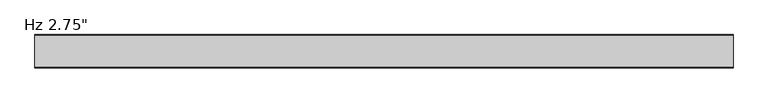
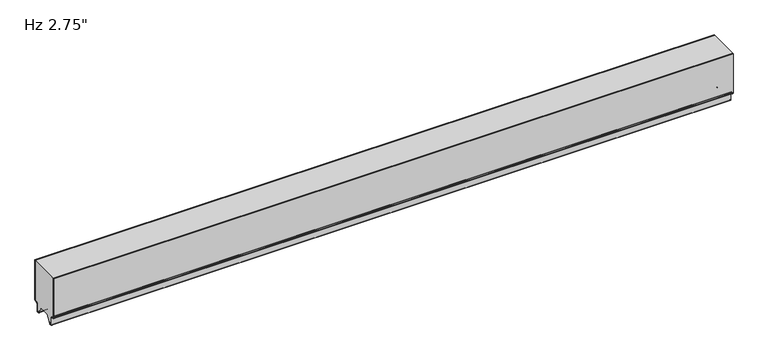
"""IFC4 building model written with IfcOpenShell, lengths in millimetres: plate geometry."""

from ifc_helpers import new_model, si_unit, frame, origin, place, context, project, spatial, polyline, circle_curve, source, transform, mapped, element, save
from ifc_brep_helpers import plane_surface, cylinder_surface, revolved_surface, advanced_brep


def plate_9613dffa(model_context):
    return source(origin(), model_context, "Body", "AdvancedBrep", [
        advanced_brep(
        [(-730.0, -2.9776189, 3.8501063), (-730.0, -1.0007088, 5.8270163), (-730.0, -1.0007088, 94.95), (-730.0, 0.0, 94.95), (-730.0, 0.0, 5.8272211), (-730.0, -2.977286, 2.8499526), (-730.0, -5.2691698, 2.8499526), (-730.0, -8.2464384, -0.1273159), (-730.0, -8.2464384, -15.7237419), (-730.0, -9.8343149, -17.3116185), (-730.0, -12.9058636, -17.3116185), (-730.0, -14.4937401, -15.7237419), (-730.0, -14.4937401, -13.3687064), (-730.0, -13.4937365, -13.3687064), (-730.0, -13.4937365, -15.7237374), (-730.0, -12.9058654, -16.3116086), (-730.0, -9.834334, -16.3116086), (-730.0, -9.2464768, -15.7237514), (-730.0, -9.2464768, -0.1272391), (-730.0, -5.2691315, 3.8501063), (730.0, -2.9776189, 3.8501063), (730.0, -5.2691315, 3.8501063), (730.0, -9.2464768, -0.1272391), (730.0, -9.2464768, -15.7237514), (730.0, -9.834334, -16.3116086), (730.0, -12.9058654, -16.3116086), (730.0, -13.4937365, -15.7237374), (730.0, -13.4937365, -13.3687064), (730.0, -14.4937401, -13.3687064), (730.0, -14.4937401, -15.7237419), (730.0, -12.9058636, -17.3116185), (730.0, -9.8343149, -17.3116185), (730.0, -8.2464384, -15.7237419), (730.0, -8.2464384, -0.1273159), (730.0, -5.2691698, 2.8499526), (730.0, -2.977286, 2.8499526), (730.0, -1.75e-05, 5.8272211), (730.0, 0.0, 94.95), (730.0, -1.0007088, 94.95), (730.0, -1.0007088, 5.8270163)],
        [
            (0, 1, circle_curve(frame((-730.0, -2.9776189, 5.8270163), z_axis=(1.0, 0.0, 0.0), x_axis=(0.0, 1.0, 0.0)), 1.9769101)),
            (1, 2),
            (2, 3),
            (3, 4),
            (4, 5, circle_curve(frame((-730.0, -2.977286, 5.8272211), z_axis=(-1.0, 0.0, 0.0), x_axis=(0.0, 1.0, 0.0)), 2.9772685)),
            (5, 6),
            (6, 7, circle_curve(frame((-730.0, -5.2691698, -0.1273159), z_axis=(1.0, 0.0, 0.0), x_axis=(0.0, 1.0, 0.0)), 2.9772685)),
            (7, 8),
            (8, 9, circle_curve(frame((-730.0, -9.8343149, -15.7237419), z_axis=(-1.0, 0.0, 0.0), x_axis=(0.0, 1.0, 0.0)), 1.5878765)),
            (9, 10),
            (10, 11, circle_curve(frame((-730.0, -12.9058636, -15.7237419), z_axis=(-1.0, 0.0, 0.0), x_axis=(0.0, 1.0, 0.0)), 1.5878765)),
            (11, 12),
            (12, 13),
            (13, 14),
            (14, 15, circle_curve(frame((-730.0, -12.9058654, -15.7237374), z_axis=(1.0, 0.0, 0.0), x_axis=(0.0, 1.0, 0.0)), 0.5878711)),
            (15, 16),
            (16, 17, circle_curve(frame((-730.0, -9.834334, -15.7237514), z_axis=(1.0, 0.0, 0.0), x_axis=(0.0, 1.0, 0.0)), 0.5878572)),
            (17, 18),
            (18, 19, circle_curve(frame((-730.0, -5.2691315, -0.1272391), z_axis=(-1.0, 0.0, 0.0), x_axis=(0.0, 1.0, 0.0)), 3.9773454)),
            (19, 0),
            (20, 21),
            (21, 22, circle_curve(frame((730.0, -5.2691315, -0.1272391), z_axis=(1.0, 0.0, 0.0), x_axis=(0.0, 1.0, 0.0)), 3.9773454)),
            (22, 23),
            (23, 24, circle_curve(frame((730.0, -9.834334, -15.7237514), z_axis=(-1.0, 0.0, 0.0), x_axis=(0.0, 1.0, 0.0)), 0.5878572)),
            (24, 25),
            (25, 26, circle_curve(frame((730.0, -12.9058654, -15.7237374), z_axis=(-1.0, 0.0, 0.0), x_axis=(0.0, 1.0, 0.0)), 0.5878711)),
            (26, 27),
            (27, 28),
            (28, 29),
            (29, 30, circle_curve(frame((730.0, -12.9058636, -15.7237419), z_axis=(1.0, 0.0, 0.0), x_axis=(0.0, 1.0, 0.0)), 1.5878765)),
            (30, 31),
            (31, 32, circle_curve(frame((730.0, -9.8343149, -15.7237419), z_axis=(1.0, 0.0, 0.0), x_axis=(0.0, 1.0, 0.0)), 1.5878765)),
            (32, 33),
            (33, 34, circle_curve(frame((730.0, -5.2691698, -0.1273159), z_axis=(-1.0, 0.0, 0.0), x_axis=(0.0, 1.0, 0.0)), 2.9772685)),
            (34, 35),
            (35, 36, circle_curve(frame((730.0, -2.977286, 5.8272211), z_axis=(1.0, 0.0, 0.0), x_axis=(0.0, 1.0, 0.0)), 2.9772685)),
            (36, 37),
            (37, 38),
            (38, 39),
            (39, 20, circle_curve(frame((730.0, -2.9776189, 5.8270163), z_axis=(-1.0, 0.0, 0.0), x_axis=(0.0, 1.0, 0.0)), 1.9769101)),
            (2, 38),
            (37, 3),
            (19, 21),
            (20, 0),
            (18, 22),
            (17, 23),
            (16, 24),
            (15, 25),
            (14, 26),
            (13, 27),
            (12, 28),
            (11, 29),
            (10, 30),
            (9, 31),
            (8, 32),
            (7, 33),
            (6, 34),
            (5, 35),
            (4, 36),
            (1, 39),
        ],
        [
            plane_surface(frame((-730.0, 0.0, 576.2625), z_axis=(-1.0, 0.0, 0.0), x_axis=(0.0, 1.0, 0.0))),
            plane_surface(frame((730.0, 0.0, 576.2625), z_axis=(1.0, 0.0, 0.0), x_axis=(0.0, 1.0, 0.0))),
            plane_surface(frame((730.0, 10.0, 94.95), z_axis=(0.0, 0.0, 1.0), x_axis=(-1.0, 0.0, 0.0))),
            plane_surface(frame((-730.0, -2.9776189, 3.8501063), z_axis=(0.0, 0.0, 1.0), x_axis=(1.0, 0.0, 0.0))),
            cylinder_surface(frame((-730.0, -5.2691315, -0.1272391), z_axis=(-1.0, 0.0, 0.0), x_axis=(0.0, 1.0, 0.0)), 3.9773454),
            plane_surface(frame((-730.0, -9.2464768, -0.1272391), z_axis=(0.0, -1.0, 0.0), x_axis=(1.0, 0.0, 0.0))),
            revolved_surface(polyline([(730.0, -9.2464768, -15.7237514), (-730.0, -9.2464768, -15.7237514)]), (-730.0, -9.834334, -15.7237514), (1.0, 0.0, 0.0)),
            plane_surface(frame((-730.0, -9.834334, -16.3116086), z_axis=(0.0, 0.0, 1.0), x_axis=(1.0, 0.0, 0.0))),
            revolved_surface(polyline([(730.0, -12.3179943, -15.7237374), (-730.0, -12.3179943, -15.7237374)]), (-730.0, -12.9058654, -15.7237374), (1.0, 0.0, 0.0)),
            plane_surface(frame((-730.0, -13.4937365, -15.7237374), z_axis=(0.0, 1.0, 0.0), x_axis=(1.0, 0.0, 0.0))),
            plane_surface(frame((-730.0, -13.4937365, -13.3687064), z_axis=(0.0, 0.0, 1.0), x_axis=(1.0, 0.0, 0.0))),
            plane_surface(frame((-730.0, -14.4937401, -13.3687064), z_axis=(0.0, -1.0, 0.0), x_axis=(1.0, 0.0, 0.0))),
            cylinder_surface(frame((-730.0, -12.9058636, -15.7237419), z_axis=(-1.0, 0.0, 0.0), x_axis=(0.0, 1.0, 0.0)), 1.5878765),
            plane_surface(frame((-730.0, -12.9058636, -17.3116185), z_axis=(0.0, 0.0, -1.0), x_axis=(1.0, 0.0, 0.0))),
            cylinder_surface(frame((-730.0, -9.8343149, -15.7237419), z_axis=(-1.0, 0.0, 0.0), x_axis=(0.0, 1.0, 0.0)), 1.5878765),
            plane_surface(frame((-730.0, -8.2464384, -15.7237419), z_axis=(0.0, 1.0, 0.0), x_axis=(1.0, 0.0, 0.0))),
            revolved_surface(polyline([(730.0, -2.2919013, -0.1273159), (-730.0, -2.2919013, -0.1273159)]), (-730.0, -5.2691698, -0.1273159), (1.0, 0.0, 0.0)),
            plane_surface(frame((-730.0, -5.2691698, 2.8499526), z_axis=(0.0, 0.0, -1.0), x_axis=(1.0, 0.0, 0.0))),
            cylinder_surface(frame((-730.0, -2.977286, 5.8272211), z_axis=(-1.0, 0.0, 0.0), x_axis=(0.0, 1.0, 0.0)), 2.9772685),
            plane_surface(frame((-730.0, 0.0, 5.8272211), z_axis=(0.0, 1.0, 0.0), x_axis=(1.0, 0.0, 0.0))),
            plane_surface(frame((-730.0, -1.0007088, 1150.812837), z_axis=(0.0, -1.0, 0.0), x_axis=(1.0, 0.0, 0.0))),
            revolved_surface(polyline([(730.0, -1.0007088, 5.8270163), (-730.0, -1.0007088, 5.8270163)]), (-730.0, -2.9776189, 5.8270163), (1.0, 0.0, 0.0)),
        ],
        [
            (0, [[1, 2, 3, 4, 5, 6, 7, 8, 9, 10, 11, 12, 13, 14, 15, 16, 17, 18, 19, 20]]),
            (1, [[21, 22, 23, 24, 25, 26, 27, 28, 29, 30, 31, 32, 33, 34, 35, 36, 37, 38, 39, 40]]),
            (2, [[41, -38, 42, -3]]),
            (3, [[43, -21, 44, -20]]),
            (4, [[45, -22, -43, -19]]),
            (5, [[46, -23, -45, -18]]),
            (6, [[47, -24, -46, -17]]),
            (7, [[48, -25, -47, -16]]),
            (8, [[49, -26, -48, -15]]),
            (9, [[50, -27, -49, -14]]),
            (10, [[51, -28, -50, -13]]),
            (11, [[52, -29, -51, -12]]),
            (12, [[53, -30, -52, -11]]),
            (13, [[54, -31, -53, -10]]),
            (14, [[55, -32, -54, -9]]),
            (15, [[56, -33, -55, -8]]),
            (16, [[57, -34, -56, -7]]),
            (17, [[58, -35, -57, -6]]),
            (18, [[59, -36, -58, -5]]),
            (19, [[-4, -42, -37, -59]]),
            (20, [[-39, -41, -2, 60]]),
            (21, [[-44, -40, -60, -1]]),
        ],
    ),
        advanced_brep(
        [(-730.0, -66.9223811, 3.8501063), (-730.0, -64.6308685, 3.8501063), (-730.0, -60.6535232, -0.1272391), (-730.0, -60.6535232, -15.7237514), (-730.0, -60.065666, -16.3116086), (-730.0, -56.9941346, -16.3116086), (-730.0, -56.4062635, -15.7237374), (-730.0, -56.4062635, -13.3687064), (-730.0, -55.4062599, -13.3687064), (-730.0, -55.4062599, -15.7237419), (-730.0, -56.9941364, -17.3116185), (-730.0, -60.0656851, -17.3116185), (-730.0, -61.6535616, -15.7237419), (-730.0, -61.6535616, -0.1273159), (-730.0, -64.6308302, 2.8499526), (-730.0, -66.922714, 2.8499526), (-730.0, -69.8999825, 5.8272211), (-730.0, -69.9, 94.95), (-730.0, -68.8992912, 94.95), (-730.0, -68.8992912, 5.8270163), (730.0, -66.9223811, 3.8501063), (730.0, -68.8992912, 5.8270163), (730.0, -68.8992912, 94.95), (730.0, -69.9, 94.95), (730.0, -69.9, 5.8272211), (730.0, -66.922714, 2.8499526), (730.0, -64.6308302, 2.8499526), (730.0, -61.6535616, -0.1273159), (730.0, -61.6535616, -15.7237419), (730.0, -60.0656851, -17.3116185), (730.0, -56.9941364, -17.3116185), (730.0, -55.4062599, -15.7237419), (730.0, -55.4062599, -13.3687064), (730.0, -56.4062635, -13.3687064), (730.0, -56.4062635, -15.7237374), (730.0, -56.9941346, -16.3116086), (730.0, -60.065666, -16.3116086), (730.0, -60.6535232, -15.7237514), (730.0, -60.6535232, -0.1272391), (730.0, -64.6308685, 3.8501063)],
        [
            (0, 1),
            (1, 2, circle_curve(frame((-730.0, -64.6308685, -0.1272391), z_axis=(-1.0, 0.0, 0.0), x_axis=(0.0, 0.0, -1.0)), 3.9773454)),
            (2, 3),
            (3, 4, circle_curve(frame((-730.0, -60.065666, -15.7237514), z_axis=(1.0, 0.0, 0.0), x_axis=(0.0, 0.0, -1.0)), 0.5878572)),
            (4, 5),
            (5, 6, circle_curve(frame((-730.0, -56.9941346, -15.7237374), z_axis=(1.0, 0.0, 0.0), x_axis=(0.0, 0.0, -1.0)), 0.5878711)),
            (6, 7),
            (7, 8),
            (8, 9),
            (9, 10, circle_curve(frame((-730.0, -56.9941364, -15.7237419), z_axis=(-1.0, 0.0, 0.0), x_axis=(0.0, 0.0, -1.0)), 1.5878765)),
            (10, 11),
            (11, 12, circle_curve(frame((-730.0, -60.0656851, -15.7237419), z_axis=(-1.0, 0.0, 0.0), x_axis=(0.0, 0.0, -1.0)), 1.5878765)),
            (12, 13),
            (13, 14, circle_curve(frame((-730.0, -64.6308302, -0.1273159), z_axis=(1.0, 0.0, 0.0), x_axis=(0.0, 0.0, -1.0)), 2.9772685)),
            (14, 15),
            (15, 16, circle_curve(frame((-730.0, -66.922714, 5.8272211), z_axis=(-1.0, 0.0, 0.0), x_axis=(0.0, 0.0, -1.0)), 2.9772685)),
            (16, 17),
            (17, 18),
            (18, 19),
            (19, 0, circle_curve(frame((-730.0, -66.9223811, 5.8270163), z_axis=(1.0, 0.0, 0.0), x_axis=(0.0, 0.0, -1.0)), 1.9769101)),
            (20, 21, circle_curve(frame((730.0, -66.9223811, 5.8270163), z_axis=(-1.0, 0.0, 0.0), x_axis=(0.0, 0.0, -1.0)), 1.9769101)),
            (21, 22),
            (22, 23),
            (23, 24),
            (24, 25, circle_curve(frame((730.0, -66.922714, 5.8272211), z_axis=(1.0, 0.0, 0.0), x_axis=(0.0, 0.0, -1.0)), 2.9772685)),
            (25, 26),
            (26, 27, circle_curve(frame((730.0, -64.6308302, -0.1273159), z_axis=(-1.0, 0.0, 0.0), x_axis=(0.0, 0.0, -1.0)), 2.9772685)),
            (27, 28),
            (28, 29, circle_curve(frame((730.0, -60.0656851, -15.7237419), z_axis=(1.0, 0.0, 0.0), x_axis=(0.0, 0.0, -1.0)), 1.5878765)),
            (29, 30),
            (30, 31, circle_curve(frame((730.0, -56.9941364, -15.7237419), z_axis=(1.0, 0.0, 0.0), x_axis=(0.0, 0.0, -1.0)), 1.5878765)),
            (31, 32),
            (32, 33),
            (33, 34),
            (34, 35, circle_curve(frame((730.0, -56.9941346, -15.7237374), z_axis=(-1.0, 0.0, 0.0), x_axis=(0.0, 0.0, -1.0)), 0.5878711)),
            (35, 36),
            (36, 37, circle_curve(frame((730.0, -60.065666, -15.7237514), z_axis=(-1.0, 0.0, 0.0), x_axis=(0.0, 0.0, -1.0)), 0.5878572)),
            (37, 38),
            (38, 39, circle_curve(frame((730.0, -64.6308685, -0.1272391), z_axis=(1.0, 0.0, 0.0), x_axis=(0.0, 0.0, -1.0)), 3.9773454)),
            (39, 20),
            (17, 23),
            (22, 18),
            (19, 21),
            (20, 0),
            (16, 24),
            (15, 25),
            (14, 26),
            (13, 27),
            (12, 28),
            (11, 29),
            (10, 30),
            (9, 31),
            (8, 32),
            (7, 33),
            (6, 34),
            (5, 35),
            (4, 36),
            (3, 37),
            (2, 38),
            (1, 39),
        ],
        [
            plane_surface(frame((-730.0, -69.9, 576.2625), z_axis=(-1.0, 0.0, 0.0), x_axis=(0.0, -1.0, 0.0))),
            plane_surface(frame((730.0, -69.9, 576.2625), z_axis=(1.0, 0.0, 0.0), x_axis=(0.0, -1.0, 0.0))),
            plane_surface(frame((730.0, 10.0, 94.95), z_axis=(0.0, 0.0, 1.0), x_axis=(-1.0, 0.0, 0.0))),
            revolved_surface(polyline([(730.0, -66.9223811, 3.8501062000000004), (-730.0, -66.9223811, 3.8501062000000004)]), (-730.0, -66.9223811, 5.8270163), (1.0, 0.0, 0.0)),
            plane_surface(frame((-730.0, -68.8992912, 5.8270163), z_axis=(0.0, 1.0, 0.0), x_axis=(1.0, 0.0, 0.0))),
            plane_surface(frame((-730.0, -69.9, 1150.8100652), z_axis=(0.0, -1.0, 0.0), x_axis=(1.0, 0.0, 0.0))),
            cylinder_surface(frame((-730.0, -66.922714, 5.8272211), z_axis=(-1.0, 0.0, 0.0), x_axis=(0.0, 0.0, -1.0)), 2.9772685),
            plane_surface(frame((-730.0, -66.922714, 2.8499526), z_axis=(0.0, 0.0, -1.0), x_axis=(1.0, 0.0, 0.0))),
            revolved_surface(polyline([(730.0, -64.6308302, -3.1045844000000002), (-730.0, -64.6308302, -3.1045844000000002)]), (-730.0, -64.6308302, -0.1273159), (1.0, 0.0, 0.0)),
            plane_surface(frame((-730.0, -61.6535616, -0.1273159), z_axis=(0.0, -1.0, 0.0), x_axis=(1.0, 0.0, 0.0))),
            cylinder_surface(frame((-730.0, -60.0656851, -15.7237419), z_axis=(-1.0, 0.0, 0.0), x_axis=(0.0, 0.0, -1.0)), 1.5878765),
            plane_surface(frame((-730.0, -60.0656851, -17.3116185), z_axis=(0.0, 0.0, -1.0), x_axis=(1.0, 0.0, 0.0))),
            cylinder_surface(frame((-730.0, -56.9941364, -15.7237419), z_axis=(-1.0, 0.0, 0.0), x_axis=(0.0, 0.0, -1.0)), 1.5878765),
            plane_surface(frame((-730.0, -55.4062599, -15.7237419), z_axis=(0.0, 1.0, 0.0), x_axis=(1.0, 0.0, 0.0))),
            plane_surface(frame((-730.0, -55.4062599, -13.3687064), z_axis=(0.0, 0.0, 1.0), x_axis=(1.0, 0.0, 0.0))),
            plane_surface(frame((-730.0, -56.4062635, -13.3687064), z_axis=(0.0, -1.0, 0.0), x_axis=(1.0, 0.0, 0.0))),
            revolved_surface(polyline([(730.0, -56.9941346, -16.3116085), (-730.0, -56.9941346, -16.3116085)]), (-730.0, -56.9941346, -15.7237374), (1.0, 0.0, 0.0)),
            plane_surface(frame((-730.0, -56.9941346, -16.3116086), z_axis=(0.0, 0.0, 1.0), x_axis=(1.0, 0.0, 0.0))),
            revolved_surface(polyline([(730.0, -60.065666, -16.3116086), (-730.0, -60.065666, -16.3116086)]), (-730.0, -60.065666, -15.7237514), (1.0, 0.0, 0.0)),
            plane_surface(frame((-730.0, -60.6535232, -15.7237514), z_axis=(0.0, 1.0, 0.0), x_axis=(1.0, 0.0, 0.0))),
            cylinder_surface(frame((-730.0, -64.6308685, -0.1272391), z_axis=(-1.0, 0.0, 0.0), x_axis=(0.0, 0.0, -1.0)), 3.9773454),
            plane_surface(frame((-730.0, -64.6308685, 3.8501063), z_axis=(0.0, 0.0, 1.0), x_axis=(1.0, 0.0, 0.0))),
        ],
        [
            (0, [[1, 2, 3, 4, 5, 6, 7, 8, 9, 10, 11, 12, 13, 14, 15, 16, 17, 18, 19, 20]]),
            (1, [[21, 22, 23, 24, 25, 26, 27, 28, 29, 30, 31, 32, 33, 34, 35, 36, 37, 38, 39, 40]]),
            (2, [[41, -23, 42, -18]]),
            (3, [[43, -21, 44, -20]]),
            (4, [[-19, -42, -22, -43]]),
            (5, [[-24, -41, -17, 45]]),
            (6, [[46, -25, -45, -16]]),
            (7, [[47, -26, -46, -15]]),
            (8, [[48, -27, -47, -14]]),
            (9, [[49, -28, -48, -13]]),
            (10, [[50, -29, -49, -12]]),
            (11, [[51, -30, -50, -11]]),
            (12, [[52, -31, -51, -10]]),
            (13, [[53, -32, -52, -9]]),
            (14, [[54, -33, -53, -8]]),
            (15, [[55, -34, -54, -7]]),
            (16, [[56, -35, -55, -6]]),
            (17, [[57, -36, -56, -5]]),
            (18, [[58, -37, -57, -4]]),
            (19, [[59, -38, -58, -3]]),
            (20, [[60, -39, -59, -2]]),
            (21, [[-44, -40, -60, -1]]),
        ],
    ),
        advanced_brep(
        [(-730.0, -66.9227194, 3.8499499), (-730.0, -68.8999935, 5.8272239), (-730.0, -68.9, 94.95), (-730.0, -1.0, 94.95), (-730.0, -1.0, 5.8272239), (-730.0, -2.9772806, 3.8499499), (-730.0, -5.2691705, 3.8499499), (-730.0, -9.2464377, -0.1273173), (-730.0, -9.2464377, -15.7237417), (-730.0, -9.8343146, -16.3116186), (-730.0, -12.9058635, -16.3116186), (-730.0, -13.4937402, -15.723742), (-730.0, -13.4937402, -13.3687064), (-730.0, -14.4937402, -13.3687064), (-730.0, -14.4937402, -15.6582851), (-730.0, -23.7509135, 0.0), (-730.0, -46.1490865, 0.0), (-730.0, -55.4062598, -15.6582851), (-730.0, -55.4062598, -13.3687064), (-730.0, -56.4062598, -13.3687064), (-730.0, -56.4062598, -15.723742), (-730.0, -56.9941365, -16.3116186), (-730.0, -60.0656854, -16.3116186), (-730.0, -60.6535623, -15.7237417), (-730.0, -60.6535623, -0.1273173), (-730.0, -64.6308295, 3.8499499), (730.0, -66.9227194, 3.8499499), (730.0, -64.6308295, 3.8499499), (730.0, -60.6535623, -0.1273173), (730.0, -60.6535623, -15.7237417), (730.0, -60.0656854, -16.3116186), (730.0, -56.9941365, -16.3116186), (730.0, -56.4062598, -15.723742), (730.0, -56.4062598, -13.3687064), (730.0, -55.4062598, -13.3687064), (730.0, -55.4062598, -15.6582851), (730.0, -46.1490865, 0.0), (730.0, -23.7509179, 0.0), (730.0, -14.4937402, -15.6582851), (730.0, -14.4937402, -13.3687064), (730.0, -13.4937402, -13.3687064), (730.0, -13.4937402, -15.723742), (730.0, -12.9058635, -16.3116186), (730.0, -9.8343146, -16.3116186), (730.0, -9.2464377, -15.7237417), (730.0, -9.2464377, -0.1273173), (730.0, -5.2691705, 3.8499499), (730.0, -2.9772806, 3.8499499), (730.0, -1.0000065, 5.8272239), (730.0, -1.0, 94.95), (730.0, -68.9, 94.95), (730.0, -68.9, 5.8272239)],
        [
            (0, 1, circle_curve(frame((-730.0, -66.9227194, 5.8272239), z_axis=(-1.0, 0.0, 0.0), x_axis=(0.0, 0.0, -1.0)), 1.977274)),
            (1, 2),
            (2, 3),
            (3, 4),
            (4, 5, circle_curve(frame((-730.0, -2.9772806, 5.8272239), z_axis=(-1.0, 0.0, 0.0), x_axis=(0.0, 1.0, 0.0)), 1.977274)),
            (5, 6),
            (6, 7, circle_curve(frame((-730.0, -5.2691705, -0.1273173), z_axis=(1.0, 0.0, 0.0), x_axis=(0.0, 1.0, 0.0)), 3.9772671)),
            (7, 8),
            (8, 9, circle_curve(frame((-730.0, -9.8343146, -15.7237417), z_axis=(-1.0, 0.0, 0.0), x_axis=(0.0, 1.0, 0.0)), 0.5878769)),
            (9, 10),
            (10, 11, circle_curve(frame((-730.0, -12.9058635, -15.723742), z_axis=(-1.0, 0.0, 0.0), x_axis=(0.0, 1.0, 0.0)), 0.5878766)),
            (11, 12),
            (12, 13),
            (13, 14),
            (14, 15),
            (15, 16),
            (16, 17),
            (17, 18),
            (18, 19),
            (19, 20),
            (20, 21, circle_curve(frame((-730.0, -56.9941365, -15.723742), z_axis=(-1.0, 0.0, 0.0), x_axis=(0.0, 0.0, -1.0)), 0.5878766)),
            (21, 22),
            (22, 23, circle_curve(frame((-730.0, -60.0656854, -15.7237417), z_axis=(-1.0, 0.0, 0.0), x_axis=(0.0, 0.0, -1.0)), 0.5878769)),
            (23, 24),
            (24, 25, circle_curve(frame((-730.0, -64.6308295, -0.1273173), z_axis=(1.0, 0.0, 0.0), x_axis=(0.0, 0.0, -1.0)), 3.9772671)),
            (25, 0),
            (26, 27),
            (27, 28, circle_curve(frame((730.0, -64.6308295, -0.1273173), z_axis=(-1.0, 0.0, 0.0), x_axis=(0.0, 0.0, -1.0)), 3.9772671)),
            (28, 29),
            (29, 30, circle_curve(frame((730.0, -60.0656854, -15.7237417), z_axis=(1.0, 0.0, 0.0), x_axis=(0.0, 0.0, -1.0)), 0.5878769)),
            (30, 31),
            (31, 32, circle_curve(frame((730.0, -56.9941365, -15.723742), z_axis=(1.0, 0.0, 0.0), x_axis=(0.0, 0.0, -1.0)), 0.5878766)),
            (32, 33),
            (33, 34),
            (34, 35),
            (35, 36),
            (36, 37),
            (37, 38),
            (38, 39),
            (39, 40),
            (40, 41),
            (41, 42, circle_curve(frame((730.0, -12.9058635, -15.723742), z_axis=(1.0, 0.0, 0.0), x_axis=(0.0, 1.0, 0.0)), 0.5878766)),
            (42, 43),
            (43, 44, circle_curve(frame((730.0, -9.8343146, -15.7237417), z_axis=(1.0, 0.0, 0.0), x_axis=(0.0, 1.0, 0.0)), 0.5878769)),
            (44, 45),
            (45, 46, circle_curve(frame((730.0, -5.2691705, -0.1273173), z_axis=(-1.0, 0.0, 0.0), x_axis=(0.0, 1.0, 0.0)), 3.9772671)),
            (46, 47),
            (47, 48, circle_curve(frame((730.0, -2.9772806, 5.8272239), z_axis=(1.0, 0.0, 0.0), x_axis=(0.0, 1.0, 0.0)), 1.977274)),
            (48, 49),
            (49, 50),
            (50, 51),
            (51, 26, circle_curve(frame((730.0, -66.9227194, 5.8272239), z_axis=(1.0, 0.0, 0.0), x_axis=(0.0, 0.0, -1.0)), 1.977274)),
            (36, 16),
            (15, 37),
            (2, 50),
            (49, 3),
            (25, 27),
            (26, 0),
            (24, 28),
            (23, 29),
            (22, 30),
            (21, 31),
            (20, 32),
            (19, 33),
            (18, 34),
            (17, 35),
            (1, 51),
            (4, 48),
            (47, 5),
            (14, 38),
            (13, 39),
            (12, 40),
            (11, 41),
            (10, 42),
            (9, 43),
            (8, 44),
            (7, 45),
            (6, 46),
        ],
        [
            plane_surface(frame((-730.0, -68.9, 576.2625), z_axis=(-1.0, 0.0, 0.0), x_axis=(0.0, -1.0, 0.0))),
            plane_surface(frame((730.0, -68.9, 576.2625), z_axis=(1.0, 0.0, 0.0), x_axis=(0.0, -1.0, 0.0))),
            plane_surface(frame((-730.0, -46.1490865, 0.0), z_axis=(0.0, 0.0, -1.0), x_axis=(1.0, 0.0, 0.0))),
            plane_surface(frame((730.0, 10.0, 94.95), z_axis=(0.0, 0.0, 1.0), x_axis=(-1.0, 0.0, 0.0))),
            plane_surface(frame((-730.0, -66.9227194, 3.8499499), z_axis=(0.0, 0.0, -1.0), x_axis=(1.0, 0.0, 0.0))),
            revolved_surface(polyline([(730.0, -64.6308295, -4.1045844), (-730.0, -64.6308295, -4.1045844)]), (-730.0, -64.6308295, -0.1273173), (1.0, 0.0, 0.0)),
            plane_surface(frame((-730.0, -60.6535623, -0.1273173), z_axis=(0.0, -1.0, 0.0), x_axis=(1.0, 0.0, 0.0))),
            cylinder_surface(frame((-730.0, -60.0656854, -15.7237417), z_axis=(-1.0, 0.0, 0.0), x_axis=(0.0, 0.0, -1.0)), 0.5878769),
            plane_surface(frame((-730.0, -60.0656854, -16.3116186), z_axis=(0.0, 0.0, -1.0), x_axis=(1.0, 0.0, 0.0))),
            cylinder_surface(frame((-730.0, -56.9941365, -15.723742), z_axis=(-1.0, 0.0, 0.0), x_axis=(0.0, 0.0, -1.0)), 0.5878766),
            plane_surface(frame((-730.0, -56.4062598, -15.723742), z_axis=(0.0, 1.0, 0.0), x_axis=(1.0, 0.0, 0.0))),
            plane_surface(frame((-730.0, -56.4062598, -13.3687064), z_axis=(0.0, 0.0, -1.0), x_axis=(1.0, 0.0, 0.0))),
            plane_surface(frame((-730.0, -55.4062598, -13.3687064), z_axis=(0.0, -1.0, 0.0), x_axis=(1.0, 0.0, 0.0))),
            plane_surface(frame((-730.0, -55.4062598, -15.6582851), z_axis=(0.0, 0.8608169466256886, -0.5089147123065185), x_axis=(1.0, 0.0, 0.0))),
            plane_surface(frame((-730.0, -68.9, 1150.8100652), z_axis=(0.0, -1.0, 0.0), x_axis=(1.0, 0.0, 0.0))),
            cylinder_surface(frame((-730.0, -66.9227194, 5.8272239), z_axis=(-1.0, 0.0, 0.0), x_axis=(0.0, 0.0, -1.0)), 1.977274),
            cylinder_surface(frame((-730.0, -2.9772806, 5.8272239), z_axis=(-1.0, 0.0, 0.0), x_axis=(0.0, 1.0, 0.0)), 1.977274),
            plane_surface(frame((-730.0, -1.0, 5.8272239), z_axis=(0.0, 1.0, 0.0), x_axis=(1.0, 0.0, 0.0))),
            plane_surface(frame((-730.0, -23.7509135, 0.0), z_axis=(0.0, -0.8608169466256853, -0.5089147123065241), x_axis=(1.0, 0.0, 0.0))),
            plane_surface(frame((-730.0, -14.4937402, -15.6582851), z_axis=(0.0, 1.0, 0.0), x_axis=(1.0, 0.0, 0.0))),
            plane_surface(frame((-730.0, -14.4937402, -13.3687064), z_axis=(0.0, 0.0, -1.0), x_axis=(1.0, 0.0, 0.0))),
            plane_surface(frame((-730.0, -13.4937402, -13.3687064), z_axis=(0.0, -1.0, 0.0), x_axis=(1.0, 0.0, 0.0))),
            cylinder_surface(frame((-730.0, -12.9058635, -15.723742), z_axis=(-1.0, 0.0, 0.0), x_axis=(0.0, 1.0, 0.0)), 0.5878766),
            plane_surface(frame((-730.0, -12.9058635, -16.3116186), z_axis=(0.0, 0.0, -1.0), x_axis=(1.0, 0.0, 0.0))),
            cylinder_surface(frame((-730.0, -9.8343146, -15.7237417), z_axis=(-1.0, 0.0, 0.0), x_axis=(0.0, 1.0, 0.0)), 0.5878769),
            plane_surface(frame((-730.0, -9.2464377, -15.7237417), z_axis=(0.0, 1.0, 0.0), x_axis=(1.0, 0.0, 0.0))),
            revolved_surface(polyline([(730.0, -1.2919034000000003, -0.1273173), (-730.0, -1.2919034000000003, -0.1273173)]), (-730.0, -5.2691705, -0.1273173), (1.0, 0.0, 0.0)),
            plane_surface(frame((-730.0, -5.2691705, 3.8499499), z_axis=(0.0, 0.0, -1.0), x_axis=(1.0, 0.0, 0.0))),
        ],
        [
            (0, [[1, 2, 3, 4, 5, 6, 7, 8, 9, 10, 11, 12, 13, 14, 15, 16, 17, 18, 19, 20, 21, 22, 23, 24, 25, 26]]),
            (1, [[27, 28, 29, 30, 31, 32, 33, 34, 35, 36, 37, 38, 39, 40, 41, 42, 43, 44, 45, 46, 47, 48, 49, 50, 51, 52]]),
            (2, [[53, -16, 54, -37]]),
            (3, [[55, -50, 56, -3]]),
            (4, [[57, -27, 58, -26]]),
            (5, [[59, -28, -57, -25]]),
            (6, [[60, -29, -59, -24]]),
            (7, [[61, -30, -60, -23]]),
            (8, [[62, -31, -61, -22]]),
            (9, [[63, -32, -62, -21]]),
            (10, [[64, -33, -63, -20]]),
            (11, [[65, -34, -64, -19]]),
            (12, [[66, -35, -65, -18]]),
            (13, [[-53, -36, -66, -17]]),
            (14, [[-51, -55, -2, 67]]),
            (15, [[-58, -52, -67, -1]]),
            (16, [[68, -48, 69, -5]]),
            (17, [[-4, -56, -49, -68]]),
            (18, [[70, -38, -54, -15]]),
            (19, [[71, -39, -70, -14]]),
            (20, [[72, -40, -71, -13]]),
            (21, [[73, -41, -72, -12]]),
            (22, [[74, -42, -73, -11]]),
            (23, [[75, -43, -74, -10]]),
            (24, [[76, -44, -75, -9]]),
            (25, [[77, -45, -76, -8]]),
            (26, [[78, -46, -77, -7]]),
            (27, [[-69, -47, -78, -6]]),
        ],
    ),
    ])


if __name__ == "__main__":
    model = new_model("IFC4")
    model_context = context("Model", 3, world=origin())
    ifc_project = project(units=[si_unit("LENGTHUNIT", "METRE", prefix="MILLI")], contexts=[model_context])
    site = spatial("IfcSite", under=ifc_project)
    building = spatial("IfcBuilding", under=site)
    placement = place(None, origin())
    plate_shape = plate_9613dffa(model_context)
    element("IfcPlate", 1, ObjectType="KIP-SLI-FLI-R19-CP-Hz-FL_FL : Hz 2.75\"", at=placement, inside=building, context=model_context, shape_type="MappedRepresentation", body=[
        mapped(plate_shape, transform((0.0, 0.0, 0.0), x_axis=(1.0, 0.0, 0.0), y_axis=(0.0, 1.0, 0.0), z_axis=(0.0, 0.0, 1.0))),
    ])
    save(model, "model.ifc")
